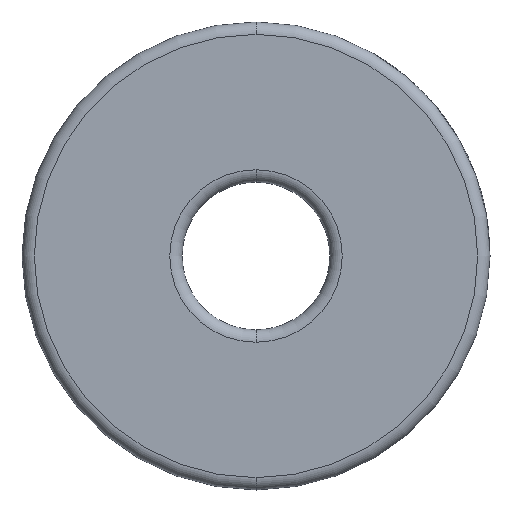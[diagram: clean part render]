
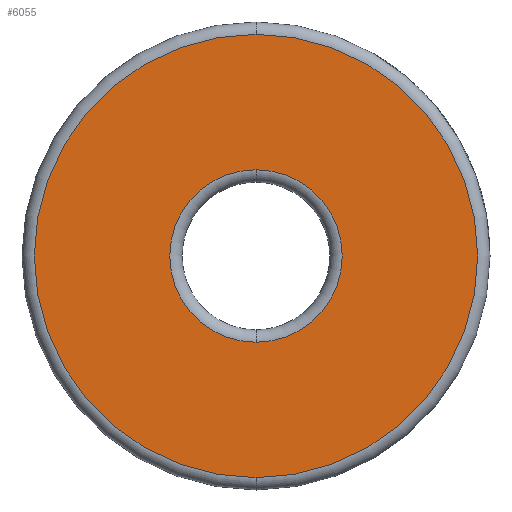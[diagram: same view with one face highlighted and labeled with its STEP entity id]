
A CAD part, front view. The second image highlights one B-rep face of the part: STEP entity #6055.
In plain terms, the highlighted planar face has unit normal (0, -1, 0).
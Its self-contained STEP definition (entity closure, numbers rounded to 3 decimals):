
#168 = CARTESIAN_POINT ( 'NONE',  ( 0., 0., -3.5 ) ) ;
#349 = EDGE_LOOP ( 'NONE', ( #5024, #2493 ) ) ;
#445 = AXIS2_PLACEMENT_3D ( 'NONE', #3034, #6559, #3535 ) ;
#668 = VERTEX_POINT ( 'NONE', #6360 ) ;
#835 = VERTEX_POINT ( 'NONE', #1694 ) ;
#860 = AXIS2_PLACEMENT_3D ( 'NONE', #1022, #5325, #2289 ) ;
#1022 = CARTESIAN_POINT ( 'NONE',  ( 0., 0., 0. ) ) ;
#1187 = DIRECTION ( 'NONE',  ( 0., 1., 0. ) ) ;
#1303 = DIRECTION ( 'NONE',  ( 0., 1., 0. ) ) ;
#1369 = CIRCLE ( 'NONE', #5447, 9. ) ;
#1694 = CARTESIAN_POINT ( 'NONE',  ( 0., 0., 9. ) ) ;
#1749 = VERTEX_POINT ( 'NONE', #168 ) ;
#2071 = CARTESIAN_POINT ( 'NONE',  ( 0., 0., 0. ) ) ;
#2289 = DIRECTION ( 'NONE',  ( 0., 0., 1. ) ) ;
#2338 = CARTESIAN_POINT ( 'NONE',  ( 0., 0., -9. ) ) ;
#2493 = ORIENTED_EDGE ( 'NONE', *, *, #5999, .T. ) ;
#2593 = DIRECTION ( 'NONE',  ( 0., 0., 1. ) ) ;
#2968 = EDGE_LOOP ( 'NONE', ( #3850, #6512 ) ) ;
#3034 = CARTESIAN_POINT ( 'NONE',  ( 0., 0., 0. ) ) ;
#3535 = DIRECTION ( 'NONE',  ( 0., 0., 1. ) ) ;
#3850 = ORIENTED_EDGE ( 'NONE', *, *, #6038, .T. ) ;
#3945 = FACE_OUTER_BOUND ( 'NONE', #2968, .T. ) ;
#4094 = CIRCLE ( 'NONE', #4768, 3.5 ) ;
#4265 = CARTESIAN_POINT ( 'NONE',  ( 0., 0., 0. ) ) ;
#4384 = CARTESIAN_POINT ( 'NONE',  ( 0., 0., 0. ) ) ;
#4516 = EDGE_CURVE ( 'NONE', #6279, #835, #4910, .T. ) ;
#4768 = AXIS2_PLACEMENT_3D ( 'NONE', #4265, #1187, #4777 ) ;
#4777 = DIRECTION ( 'NONE',  ( 0., 0., 1. ) ) ;
#4818 = CIRCLE ( 'NONE', #5323, 3.5 ) ;
#4819 = PLANE ( 'NONE',  #860 ) ;
#4893 = DIRECTION ( 'NONE',  ( 0., 0., 1. ) ) ;
#4910 = CIRCLE ( 'NONE', #445, 9. ) ;
#5024 = ORIENTED_EDGE ( 'NONE', *, *, #6419, .T. ) ;
#5323 = AXIS2_PLACEMENT_3D ( 'NONE', #4384, #1303, #4893 ) ;
#5325 = DIRECTION ( 'NONE',  ( 0., 1., 0. ) ) ;
#5447 = AXIS2_PLACEMENT_3D ( 'NONE', #2071, #5624, #2593 ) ;
#5624 = DIRECTION ( 'NONE',  ( 0., -1., 0. ) ) ;
#5999 = EDGE_CURVE ( 'NONE', #1749, #668, #4094, .T. ) ;
#6038 = EDGE_CURVE ( 'NONE', #835, #6279, #1369, .T. ) ;
#6055 = ADVANCED_FACE ( 'NONE', ( #6608, #3945 ), #4819, .F. ) ;
#6279 = VERTEX_POINT ( 'NONE', #2338 ) ;
#6360 = CARTESIAN_POINT ( 'NONE',  ( 0., 0., 3.5 ) ) ;
#6419 = EDGE_CURVE ( 'NONE', #668, #1749, #4818, .T. ) ;
#6512 = ORIENTED_EDGE ( 'NONE', *, *, #4516, .T. ) ;
#6559 = DIRECTION ( 'NONE',  ( 0., -1., 0. ) ) ;
#6608 = FACE_BOUND ( 'NONE', #349, .T. ) ;
